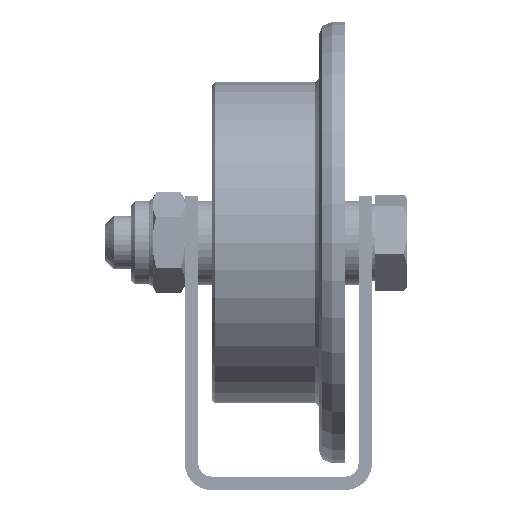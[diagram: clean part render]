
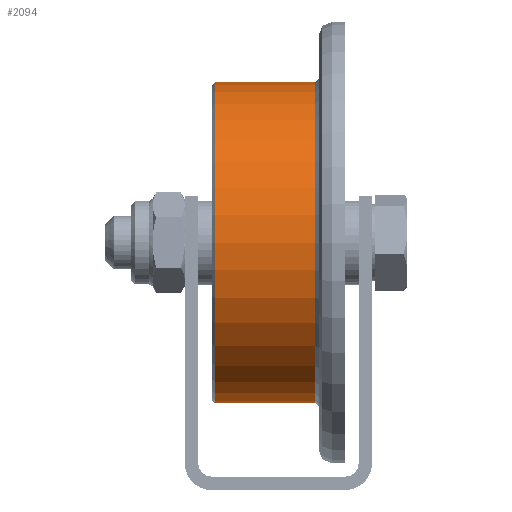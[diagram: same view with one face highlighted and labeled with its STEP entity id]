
A CAD part, front view. The second image highlights one B-rep face of the part: STEP entity #2094.
In plain terms, the highlighted cylindrical face has radius 24 mm (diameter 48 mm), a full revolution.
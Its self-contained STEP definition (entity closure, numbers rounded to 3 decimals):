
#2094 = ADVANCED_FACE( '', ( #4506, #4507 ), #4508, .T. );
#4506 = FACE_OUTER_BOUND( '', #7632, .T. );
#4507 = FACE_OUTER_BOUND( '', #7633, .T. );
#4508 = CYLINDRICAL_SURFACE( '', #7634, 24. );
#7632 = EDGE_LOOP( '', ( #11553 ) );
#7633 = EDGE_LOOP( '', ( #11554 ) );
#7634 = AXIS2_PLACEMENT_3D( '', #11555, #11556, #11557 );
#11553 = ORIENTED_EDGE( '', *, *, #14772, .T. );
#11554 = ORIENTED_EDGE( '', *, *, #14871, .T. );
#11555 = CARTESIAN_POINT( '', ( 0., -10., 0. ) );
#11556 = DIRECTION( '', ( 0., -1., 0. ) );
#11557 = DIRECTION( '', ( 0., 0., 1. ) );
#14772 = EDGE_CURVE( '', #17188, #17188, #17189, .T. );
#14871 = EDGE_CURVE( '', #17336, #17336, #17337, .F. );
#17188 = VERTEX_POINT( '', #20271 );
#17189 = CIRCLE( '', #20272, 24. );
#17336 = VERTEX_POINT( '', #20436 );
#17337 = CIRCLE( '', #20437, 24. );
#20271 = CARTESIAN_POINT( '', ( 0., -5.5, 24. ) );
#20272 = AXIS2_PLACEMENT_3D( '', #23288, #23289, #23290 );
#20436 = CARTESIAN_POINT( '', ( 0., 9.5, 24. ) );
#20437 = AXIS2_PLACEMENT_3D( '', #23444, #23445, #23446 );
#23288 = CARTESIAN_POINT( '', ( 0., -5.5, 0. ) );
#23289 = DIRECTION( '', ( 0., 1., 0. ) );
#23290 = DIRECTION( '', ( 0., 0., 1. ) );
#23444 = CARTESIAN_POINT( '', ( 0., 9.5, 0. ) );
#23445 = DIRECTION( '', ( 0., 1., 0. ) );
#23446 = DIRECTION( '', ( 0., 0., 1. ) );
